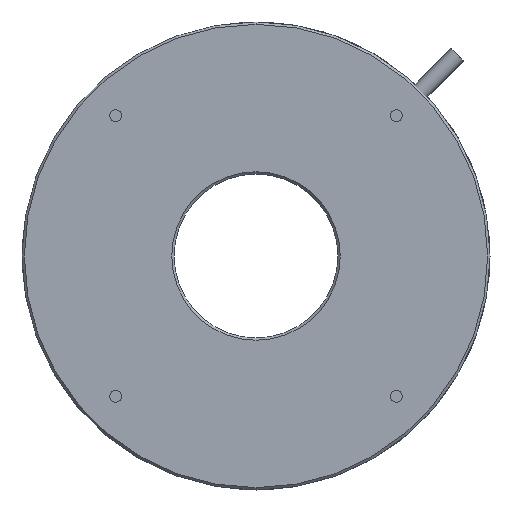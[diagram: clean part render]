
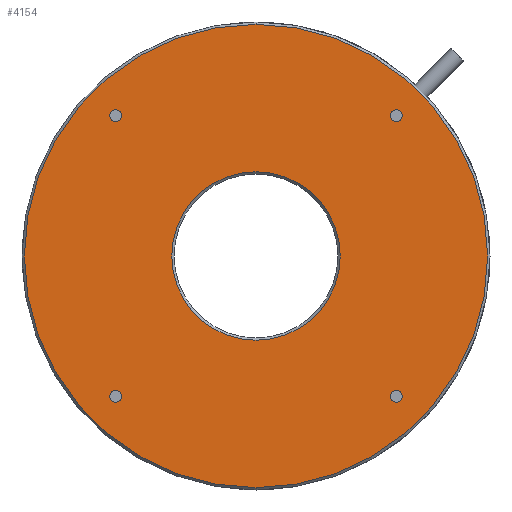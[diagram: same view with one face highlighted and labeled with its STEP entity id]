
A CAD part, front view. The second image highlights one B-rep face of the part: STEP entity #4154.
In plain terms, the highlighted planar face has unit normal (0, -1, 0).
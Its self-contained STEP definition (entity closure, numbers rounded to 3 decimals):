
#31 = CARTESIAN_POINT ( 'NONE',  ( 0., 0., 0. ) ) ;
#33 = DIRECTION ( 'NONE',  ( 0., -1., 0. ) ) ;
#39 = CIRCLE ( 'NONE', #2724, 18. ) ;
#59 = EDGE_LOOP ( 'NONE', ( #593, #2944 ) ) ;
#60 = CIRCLE ( 'NONE', #752, 1.25 ) ;
#153 = DIRECTION ( 'NONE',  ( 0., 0., -1. ) ) ;
#182 = VERTEX_POINT ( 'NONE', #3000 ) ;
#217 = FACE_BOUND ( 'NONE', #2943, .T. ) ;
#265 = DIRECTION ( 'NONE',  ( 0., -1., 0. ) ) ;
#270 = EDGE_LOOP ( 'NONE', ( #3189, #549 ) ) ;
#316 = CARTESIAN_POINT ( 'NONE',  ( 30., 0., -30. ) ) ;
#323 = DIRECTION ( 'NONE',  ( 0., -1., 0. ) ) ;
#324 = PLANE ( 'NONE',  #2773 ) ;
#361 = VERTEX_POINT ( 'NONE', #4267 ) ;
#371 = CARTESIAN_POINT ( 'NONE',  ( 0., 0., 0. ) ) ;
#379 = DIRECTION ( 'NONE',  ( 0., 0., -1. ) ) ;
#392 = CIRCLE ( 'NONE', #1906, 1.25 ) ;
#549 = ORIENTED_EDGE ( 'NONE', *, *, #663, .T. ) ;
#568 = EDGE_LOOP ( 'NONE', ( #4238, #1146 ) ) ;
#569 = DIRECTION ( 'NONE',  ( 0., -1., 0. ) ) ;
#582 = FACE_BOUND ( 'NONE', #3919, .T. ) ;
#593 = ORIENTED_EDGE ( 'NONE', *, *, #2624, .F. ) ;
#610 = CARTESIAN_POINT ( 'NONE',  ( -30., 0., -28.75 ) ) ;
#663 = EDGE_CURVE ( 'NONE', #182, #3923, #39, .T. ) ;
#730 = ORIENTED_EDGE ( 'NONE', *, *, #899, .T. ) ;
#752 = AXIS2_PLACEMENT_3D ( 'NONE', #2297, #2271, #3264 ) ;
#833 = VERTEX_POINT ( 'NONE', #1610 ) ;
#870 = VERTEX_POINT ( 'NONE', #2259 ) ;
#896 = EDGE_CURVE ( 'NONE', #361, #1021, #1030, .T. ) ;
#899 = EDGE_CURVE ( 'NONE', #2145, #3463, #2105, .T. ) ;
#1021 = VERTEX_POINT ( 'NONE', #2707 ) ;
#1030 = CIRCLE ( 'NONE', #3114, 1.25 ) ;
#1071 = AXIS2_PLACEMENT_3D ( 'NONE', #3277, #1342, #2628 ) ;
#1146 = ORIENTED_EDGE ( 'NONE', *, *, #1842, .F. ) ;
#1191 = AXIS2_PLACEMENT_3D ( 'NONE', #371, #3700, #1397 ) ;
#1252 = DIRECTION ( 'NONE',  ( 0., 0., -1. ) ) ;
#1260 = FACE_OUTER_BOUND ( 'NONE', #3173, .T. ) ;
#1330 = AXIS2_PLACEMENT_3D ( 'NONE', #2902, #2544, #1252 ) ;
#1333 = VERTEX_POINT ( 'NONE', #4078 ) ;
#1342 = DIRECTION ( 'NONE',  ( 0., -1., 0. ) ) ;
#1397 = DIRECTION ( 'NONE',  ( 0., 0., -1. ) ) ;
#1414 = AXIS2_PLACEMENT_3D ( 'NONE', #316, #1631, #2605 ) ;
#1419 = VERTEX_POINT ( 'NONE', #610 ) ;
#1483 = DIRECTION ( 'NONE',  ( 0., -1., 0. ) ) ;
#1498 = AXIS2_PLACEMENT_3D ( 'NONE', #4119, #1483, #153 ) ;
#1531 = CIRCLE ( 'NONE', #1498, 1.25 ) ;
#1579 = CIRCLE ( 'NONE', #4079, 49.5 ) ;
#1610 = CARTESIAN_POINT ( 'NONE',  ( 30., 0., 28.75 ) ) ;
#1631 = DIRECTION ( 'NONE',  ( 0., -1., 0. ) ) ;
#1673 = DIRECTION ( 'NONE',  ( 0., -1., 0. ) ) ;
#1675 = DIRECTION ( 'NONE',  ( 0., 0., -1. ) ) ;
#1748 = AXIS2_PLACEMENT_3D ( 'NONE', #31, #3694, #379 ) ;
#1842 = EDGE_CURVE ( 'NONE', #870, #4130, #1531, .T. ) ;
#1887 = VERTEX_POINT ( 'NONE', #3891 ) ;
#1906 = AXIS2_PLACEMENT_3D ( 'NONE', #3010, #1673, #3650 ) ;
#2002 = EDGE_CURVE ( 'NONE', #4130, #870, #4175, .T. ) ;
#2105 = CIRCLE ( 'NONE', #1748, 49.5 ) ;
#2126 = FACE_BOUND ( 'NONE', #270, .T. ) ;
#2145 = VERTEX_POINT ( 'NONE', #2672 ) ;
#2197 = ORIENTED_EDGE ( 'NONE', *, *, #3733, .F. ) ;
#2228 = AXIS2_PLACEMENT_3D ( 'NONE', #3172, #569, #3841 ) ;
#2259 = CARTESIAN_POINT ( 'NONE',  ( -30., 0., 31.25 ) ) ;
#2271 = DIRECTION ( 'NONE',  ( 0., -1., 0. ) ) ;
#2297 = CARTESIAN_POINT ( 'NONE',  ( 30., 0., 30. ) ) ;
#2334 = EDGE_CURVE ( 'NONE', #3463, #2145, #1579, .T. ) ;
#2344 = CARTESIAN_POINT ( 'NONE',  ( 0., 0., 0. ) ) ;
#2357 = CIRCLE ( 'NONE', #2228, 1.25 ) ;
#2424 = ORIENTED_EDGE ( 'NONE', *, *, #3767, .F. ) ;
#2459 = EDGE_CURVE ( 'NONE', #1887, #1419, #392, .T. ) ;
#2471 = DIRECTION ( 'NONE',  ( 0., 1., 0. ) ) ;
#2544 = DIRECTION ( 'NONE',  ( 0., -1., 0. ) ) ;
#2605 = DIRECTION ( 'NONE',  ( 0., 0., -1. ) ) ;
#2624 = EDGE_CURVE ( 'NONE', #1021, #361, #3401, .T. ) ;
#2628 = DIRECTION ( 'NONE',  ( 0., 0., -1. ) ) ;
#2637 = CARTESIAN_POINT ( 'NONE',  ( 0., 0., 0. ) ) ;
#2672 = CARTESIAN_POINT ( 'NONE',  ( 0., 0., -49.5 ) ) ;
#2707 = CARTESIAN_POINT ( 'NONE',  ( 30., 0., -31.25 ) ) ;
#2724 = AXIS2_PLACEMENT_3D ( 'NONE', #3096, #2471, #4085 ) ;
#2773 = AXIS2_PLACEMENT_3D ( 'NONE', #2344, #33, #3968 ) ;
#2855 = ORIENTED_EDGE ( 'NONE', *, *, #3048, .F. ) ;
#2902 = CARTESIAN_POINT ( 'NONE',  ( 30., 0., 30. ) ) ;
#2943 = EDGE_LOOP ( 'NONE', ( #2197, #2424 ) ) ;
#2944 = ORIENTED_EDGE ( 'NONE', *, *, #896, .F. ) ;
#2954 = CARTESIAN_POINT ( 'NONE',  ( 0., 0., -18. ) ) ;
#3000 = CARTESIAN_POINT ( 'NONE',  ( 0., 0., 18. ) ) ;
#3010 = CARTESIAN_POINT ( 'NONE',  ( -30., 0., -30. ) ) ;
#3016 = FACE_BOUND ( 'NONE', #568, .T. ) ;
#3048 = EDGE_CURVE ( 'NONE', #1419, #1887, #2357, .T. ) ;
#3096 = CARTESIAN_POINT ( 'NONE',  ( 0., 0., 0. ) ) ;
#3114 = AXIS2_PLACEMENT_3D ( 'NONE', #3355, #323, #1675 ) ;
#3172 = CARTESIAN_POINT ( 'NONE',  ( -30., 0., -30. ) ) ;
#3173 = EDGE_LOOP ( 'NONE', ( #3400, #730 ) ) ;
#3189 = ORIENTED_EDGE ( 'NONE', *, *, #3969, .T. ) ;
#3264 = DIRECTION ( 'NONE',  ( 0., 0., -1. ) ) ;
#3272 = DIRECTION ( 'NONE',  ( 0., 0., -1. ) ) ;
#3277 = CARTESIAN_POINT ( 'NONE',  ( -30., 0., 30. ) ) ;
#3355 = CARTESIAN_POINT ( 'NONE',  ( 30., 0., -30. ) ) ;
#3400 = ORIENTED_EDGE ( 'NONE', *, *, #2334, .T. ) ;
#3401 = CIRCLE ( 'NONE', #1414, 1.25 ) ;
#3463 = VERTEX_POINT ( 'NONE', #3779 ) ;
#3514 = ORIENTED_EDGE ( 'NONE', *, *, #2459, .F. ) ;
#3650 = DIRECTION ( 'NONE',  ( 0., 0., -1. ) ) ;
#3694 = DIRECTION ( 'NONE',  ( 0., -1., 0. ) ) ;
#3700 = DIRECTION ( 'NONE',  ( 0., 1., 0. ) ) ;
#3733 = EDGE_CURVE ( 'NONE', #833, #1333, #4270, .T. ) ;
#3767 = EDGE_CURVE ( 'NONE', #1333, #833, #60, .T. ) ;
#3779 = CARTESIAN_POINT ( 'NONE',  ( 0., 0., 49.5 ) ) ;
#3841 = DIRECTION ( 'NONE',  ( 0., 0., -1. ) ) ;
#3891 = CARTESIAN_POINT ( 'NONE',  ( -30., 0., -31.25 ) ) ;
#3897 = CIRCLE ( 'NONE', #1191, 18. ) ;
#3919 = EDGE_LOOP ( 'NONE', ( #3514, #2855 ) ) ;
#3923 = VERTEX_POINT ( 'NONE', #2954 ) ;
#3938 = CARTESIAN_POINT ( 'NONE',  ( -30., 0., 28.75 ) ) ;
#3968 = DIRECTION ( 'NONE',  ( 0., 0., -1. ) ) ;
#3969 = EDGE_CURVE ( 'NONE', #3923, #182, #3897, .T. ) ;
#4051 = FACE_BOUND ( 'NONE', #59, .T. ) ;
#4078 = CARTESIAN_POINT ( 'NONE',  ( 30., 0., 31.25 ) ) ;
#4079 = AXIS2_PLACEMENT_3D ( 'NONE', #2637, #265, #3272 ) ;
#4085 = DIRECTION ( 'NONE',  ( 0., 0., -1. ) ) ;
#4119 = CARTESIAN_POINT ( 'NONE',  ( -30., 0., 30. ) ) ;
#4130 = VERTEX_POINT ( 'NONE', #3938 ) ;
#4154 = ADVANCED_FACE ( 'NONE', ( #582, #4051, #217, #3016, #2126, #1260 ), #324, .T. ) ;
#4175 = CIRCLE ( 'NONE', #1071, 1.25 ) ;
#4238 = ORIENTED_EDGE ( 'NONE', *, *, #2002, .F. ) ;
#4267 = CARTESIAN_POINT ( 'NONE',  ( 30., 0., -28.75 ) ) ;
#4270 = CIRCLE ( 'NONE', #1330, 1.25 ) ;
